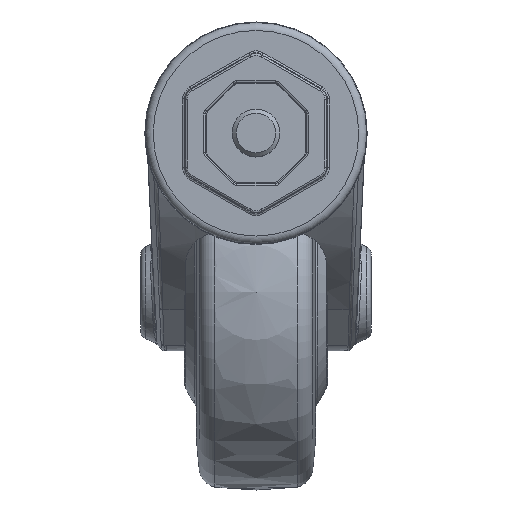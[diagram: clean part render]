
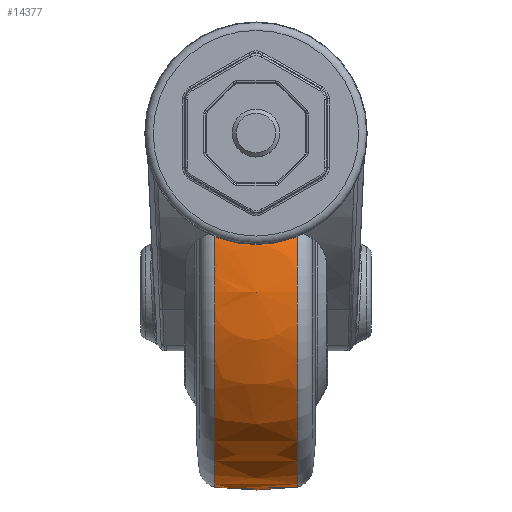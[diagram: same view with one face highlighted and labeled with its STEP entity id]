
A CAD part, top view. The second image highlights one B-rep face of the part: STEP entity #14377.
In plain terms, the highlighted spherical face has radius 50 mm.
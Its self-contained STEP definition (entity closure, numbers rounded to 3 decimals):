
#17=SPHERICAL_SURFACE('',#15381,50.);
#96=FACE_BOUND('',#3392,.T.);
#2511=FACE_OUTER_BOUND('',#3391,.T.);
#3391=EDGE_LOOP('',(#13068,#13069,#13070,#13071,#13072,#13073,#13074));
#3392=EDGE_LOOP('',(#13075,#13076));
#3836=CIRCLE('',#15377,48.918);
#3837=CIRCLE('',#15378,48.918);
#3838=CIRCLE('',#15379,48.918);
#3840=CIRCLE('',#15382,50.);
#3841=CIRCLE('',#15383,50.);
#3842=CIRCLE('',#15384,48.918);
#3843=CIRCLE('',#15385,48.918);
#6394=VERTEX_POINT('',#56274);
#6395=VERTEX_POINT('',#56275);
#6396=VERTEX_POINT('',#56277);
#6397=VERTEX_POINT('',#56282);
#6398=VERTEX_POINT('',#56284);
#6399=VERTEX_POINT('',#56286);
#6400=VERTEX_POINT('',#56287);
#8624=EDGE_CURVE('',#6394,#6395,#3836,.T.);
#8625=EDGE_CURVE('',#6396,#6394,#3837,.T.);
#8626=EDGE_CURVE('',#6395,#6396,#3838,.T.);
#8628=EDGE_CURVE('',#6397,#6395,#3840,.T.);
#8629=EDGE_CURVE('',#6396,#6398,#3841,.T.);
#8630=EDGE_CURVE('',#6399,#6400,#3842,.T.);
#8631=EDGE_CURVE('',#6400,#6399,#3843,.T.);
#13068=ORIENTED_EDGE('',*,*,#8624,.T.);
#13069=ORIENTED_EDGE('',*,*,#8628,.F.);
#13070=ORIENTED_EDGE('',*,*,#8628,.T.);
#13071=ORIENTED_EDGE('',*,*,#8626,.T.);
#13072=ORIENTED_EDGE('',*,*,#8629,.T.);
#13073=ORIENTED_EDGE('',*,*,#8629,.F.);
#13074=ORIENTED_EDGE('',*,*,#8625,.T.);
#13075=ORIENTED_EDGE('',*,*,#8630,.F.);
#13076=ORIENTED_EDGE('',*,*,#8631,.F.);
#14377=ADVANCED_FACE('',(#2511,#96),#17,.T.);
#15377=AXIS2_PLACEMENT_3D('',#56276,#17891,#17892);
#15378=AXIS2_PLACEMENT_3D('',#56278,#17893,#17894);
#15379=AXIS2_PLACEMENT_3D('',#56279,#17895,#17896);
#15381=AXIS2_PLACEMENT_3D('',#56281,#17899,#17900);
#15382=AXIS2_PLACEMENT_3D('',#56283,#17901,#17902);
#15383=AXIS2_PLACEMENT_3D('',#56285,#17903,#17904);
#15384=AXIS2_PLACEMENT_3D('',#56288,#17905,#17906);
#15385=AXIS2_PLACEMENT_3D('',#56289,#17907,#17908);
#17891=DIRECTION('center_axis',(1.,0.,0.));
#17892=DIRECTION('ref_axis',(0.,0.,
1.));
#17893=DIRECTION('center_axis',(1.,0.,0.));
#17894=DIRECTION('ref_axis',(0.,0.,
1.));
#17895=DIRECTION('center_axis',(1.,0.,0.));
#17896=DIRECTION('ref_axis',(0.,0.,
1.));
#17899=DIRECTION('center_axis',(0.,0.,
-1.));
#17900=DIRECTION('ref_axis',(1.,0.,0.));
#17901=DIRECTION('center_axis',(0.,1.,0.));
#17902=DIRECTION('ref_axis',(-1.,0.,0.));
#17903=DIRECTION('center_axis',(0.,1.,0.));
#17904=DIRECTION('ref_axis',(-1.,0.,0.));
#17905=DIRECTION('center_axis',(1.,0.,0.));
#17906=DIRECTION('ref_axis',(0.,0.,
1.));
#17907=DIRECTION('center_axis',(1.,0.,0.));
#17908=DIRECTION('ref_axis',(0.,0.,
1.));
#56274=CARTESIAN_POINT('',(-10.345,-88.918,-88.));
#56275=CARTESIAN_POINT('',(-10.345,-40.,-136.918));
#56276=CARTESIAN_POINT('Origin',(-10.345,-40.,-88.));
#56277=CARTESIAN_POINT('',(-10.345,-40.,-39.082));
#56278=CARTESIAN_POINT('Origin',(-10.345,-40.,-88.));
#56279=CARTESIAN_POINT('Origin',(-10.345,-40.,-88.));
#56281=CARTESIAN_POINT('Origin',(0.,-40.,-88.));
#56282=CARTESIAN_POINT('',(0.,-40.,-138.));
#56283=CARTESIAN_POINT('Origin',(0.,-40.,-88.));
#56284=CARTESIAN_POINT('',(0.,-40.,-38.));
#56285=CARTESIAN_POINT('Origin',(0.,-40.,-88.));
#56286=CARTESIAN_POINT('',(10.345,-88.918,-88.));
#56287=CARTESIAN_POINT('',(10.345,-40.,-136.918));
#56288=CARTESIAN_POINT('Origin',(10.345,-40.,-88.));
#56289=CARTESIAN_POINT('Origin',(10.345,-40.,-88.));
